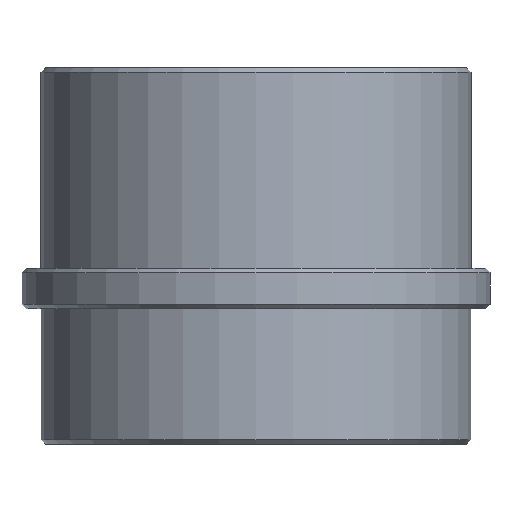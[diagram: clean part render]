
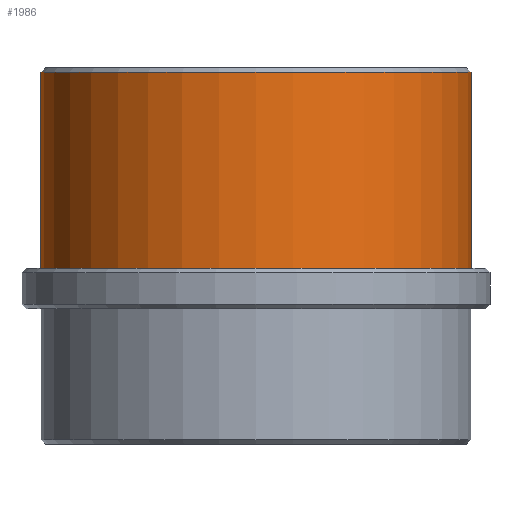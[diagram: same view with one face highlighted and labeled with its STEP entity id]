
A CAD part, front view. The second image highlights one B-rep face of the part: STEP entity #1986.
In plain terms, the highlighted cylindrical face has radius 25.406 mm (diameter 50.813 mm), a partial arc.
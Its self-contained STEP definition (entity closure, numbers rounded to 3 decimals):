
#989=CARTESIAN_POINT('',(0.,0.,27.948));
#990=DIRECTION('',(0.,0.,-1.));
#991=DIRECTION('',(1.,0.,0.));
#992=AXIS2_PLACEMENT_3D('',#989,#990,#991);
#994=DIRECTION('',(0.,0.,-1.));
#995=VECTOR('',#994,23.198);
#996=CARTESIAN_POINT('',(25.406,0.,
27.948));
#997=LINE('',#996,#995);
#998=DIRECTION('',(0.,0.,-1.));
#999=VECTOR('',#998,23.198);
#1000=CARTESIAN_POINT('',(-25.406,0.,
27.948));
#1001=LINE('',#1000,#999);
#1011=CARTESIAN_POINT('',(0.,0.,4.75));
#1012=DIRECTION('',(0.,0.,-1.));
#1013=DIRECTION('',(1.,0.,0.));
#1014=AXIS2_PLACEMENT_3D('',#1011,#1012,#1013);
#1221=CARTESIAN_POINT('',(25.406,0.,4.75));
#1222=CARTESIAN_POINT('',(-25.406,0.,4.75));
#1223=VERTEX_POINT('',#1221);
#1224=VERTEX_POINT('',#1222);
#1255=CARTESIAN_POINT('',(25.406,0.,27.948));
#1256=CARTESIAN_POINT('',(-25.406,0.,27.948));
#1257=VERTEX_POINT('',#1255);
#1258=VERTEX_POINT('',#1256);
#1972=CARTESIAN_POINT('',(0.,0.,-18.225));
#1973=DIRECTION('',(0.,0.,1.));
#1974=DIRECTION('',(-1.,0.,0.));
#1975=AXIS2_PLACEMENT_3D('',#1972,#1973,#1974);
#1976=CYLINDRICAL_SURFACE('',#1975,25.406);
#1977=ORIENTED_EDGE('',*,*,#1962,.F.);
#1979=ORIENTED_EDGE('',*,*,#1978,.T.);
#1981=ORIENTED_EDGE('',*,*,#1980,.T.);
#1983=ORIENTED_EDGE('',*,*,#1982,.F.);
#1984=EDGE_LOOP('',(#1977,#1979,#1981,#1983));
#1985=FACE_OUTER_BOUND('',#1984,.F.);
#1986=ADVANCED_FACE('',(#1985),#1976,.T.);
#993=CIRCLE('',#992,25.406);
#1015=CIRCLE('',#1014,25.406);
#1962=EDGE_CURVE('',#1257,#1258,#993,.T.);
#1978=EDGE_CURVE('',#1257,#1223,#997,.T.);
#1980=EDGE_CURVE('',#1223,#1224,#1015,.T.);
#1982=EDGE_CURVE('',#1258,#1224,#1001,.T.);
